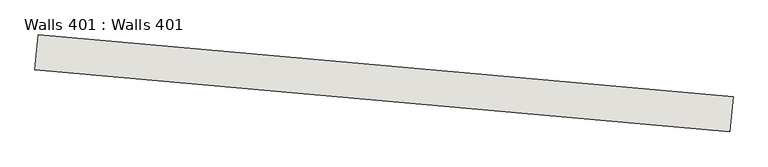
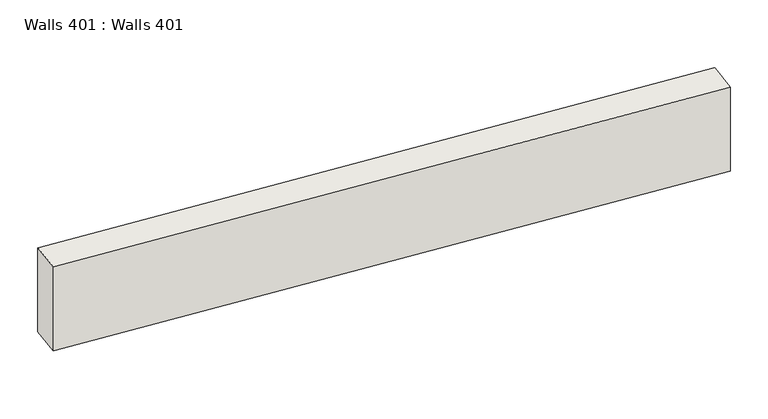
"""IFC4 building model written with IfcOpenShell, lengths in millimetres: wall geometry, Walls 401 : Walls 401."""

import ifcopenshell
import ifcopenshell.guid

model = None  # the IFC model being written
_history = None  # IfcOwnerHistory: only IFC2X3 demands one
_inside = {}  # id of a spatial element -> (the spatial element, [elements in it])
_under = {}  # id of a project, library or spatial element -> (it, [spatial elements below it])
_declared = {}  # id of a project -> (the project, [libraries it declares])
_typed = {}  # id of a type object -> (the type object, [elements of that type])
_made_of = {}  # id of a material, layer set ... -> (it, [elements and type objects made of it])


def new_model(schema):
    """Start an empty IFC model of exactly this schema.

    Asked for "IFC4X3", IfcOpenShell would pick the latest addendum, in which some entities
    have other attributes; the version numbers below select the first issue.
    IFC2X3 requires an IfcOwnerHistory on every rooted entity: one is made here for all.
    """
    global model, _history
    if schema == "IFC4X3":
        model = ifcopenshell.file(schema_version=(4, 3, 0, 0))
    else:
        model = ifcopenshell.file(schema=schema)
    _inside.clear()
    _under.clear()
    _declared.clear()
    _typed.clear()
    _made_of.clear()
    _history = None
    if model.schema == "IFC2X3":
        org = make("IfcOrganization", Name="unknown")
        user = make(
            "IfcPersonAndOrganization",
            ThePerson=make("IfcPerson", FamilyName="unknown"),
            TheOrganization=org,
        )
        app = make(
            "IfcApplication",
            ApplicationDeveloper=org,
            Version="unknown",
            ApplicationFullName="unknown",
            ApplicationIdentifier="unknown",
        )
        _history = make(
            "IfcOwnerHistory",
            OwningUser=user,
            OwningApplication=app,
            ChangeAction="ADDED",
            CreationDate=0,
        )
    return model


def make(cls, **values):
    """One entity of the class cls with the attributes given. An attribute that is None is left unset."""
    return model.create_entity(
        cls, **{name: value for name, value in values.items() if value is not None}
    )


def rooted(cls, **values):
    """An entity with a GlobalId (a new one), such as an element, a storey or a relation."""
    return make(cls, GlobalId=ifcopenshell.guid.new(), OwnerHistory=_history, **values)


def si_unit(unit_type, name, prefix=None):
    """IfcSIUnit, for example si_unit("LENGTHUNIT", "METRE", prefix="MILLI")."""
    return make("IfcSIUnit", UnitType=unit_type, Prefix=prefix, Name=name)


def assignment(units):
    """IfcUnitAssignment: the units of a project."""
    return None if units is None else make("IfcUnitAssignment", Units=units)


def point(xyz):
    """IfcCartesianPoint."""
    return None if xyz is None else make("IfcCartesianPoint", Coordinates=xyz)


def direction(xyz):
    """IfcDirection."""
    return None if xyz is None else make("IfcDirection", DirectionRatios=xyz)


def frame(location, z_axis=None, x_axis=None):
    """IfcAxis2Placement3D, a coordinate frame: its origin and axes. An axis left out is left unset."""
    return make(
        "IfcAxis2Placement3D",
        Location=point(location),
        Axis=direction(z_axis),
        RefDirection=direction(x_axis),
    )


def origin():
    """The frame at (0, 0, 0) with its axes left unset."""
    return frame((0.0, 0.0, 0.0))


def place(relative_to, where):
    """IfcLocalPlacement: puts the frame where relative to a parent placement (None: the world)."""
    return make(
        "IfcLocalPlacement", PlacementRelTo=relative_to, RelativePlacement=where
    )


def context(
    kind, dimensions, precision=None, world=None, true_north=None, identifier=None
):
    """IfcGeometricRepresentationContext, for example the 3D "Model" context."""
    return make(
        "IfcGeometricRepresentationContext",
        ContextIdentifier=identifier,
        ContextType=kind,
        CoordinateSpaceDimension=dimensions,
        Precision=precision,
        WorldCoordinateSystem=world,
        TrueNorth=true_north,
    )


def project(units=None, contexts=None):
    """IfcProject with its units and contexts."""
    return rooted(
        "IfcProject",
        Name="project",
        RepresentationContexts=contexts,
        UnitsInContext=assignment(units),
    )


def spatial(cls, under=None, at=None, **own):
    """A site, building, storey or space (cls), placed at a placement, below another one or the project."""
    s = rooted(cls, ObjectPlacement=at, **own)
    if under is not None:
        _under.setdefault(under.id(), (under, []))[1].append(s)
    return s


def polyline(points):
    """IfcPolyline through the points."""
    return make("IfcPolyline", Points=[point(p) for p in points])


def outline(outer, holes=None, kind="AREA"):
    """IfcArbitraryClosedProfileDef: a profile drawn as a closed curve; with holes, ...WithVoids."""
    if holes is None:
        return make("IfcArbitraryClosedProfileDef", ProfileType=kind, OuterCurve=outer)
    return make(
        "IfcArbitraryProfileDefWithVoids",
        ProfileType=kind,
        OuterCurve=outer,
        InnerCurves=holes,
    )


def extrude(swept, where, along, depth):
    """IfcExtrudedAreaSolid: the profile swept, set in the frame where, extruded along a direction by depth."""
    return make(
        "IfcExtrudedAreaSolid",
        SweptArea=swept,
        Position=where,
        ExtrudedDirection=direction(along),
        Depth=depth,
    )


def shape(context_of_items, identifier, shape_type, items):
    """IfcShapeRepresentation: the items that make up one representation, for example the "Body"."""
    return make(
        "IfcShapeRepresentation",
        ContextOfItems=context_of_items,
        RepresentationIdentifier=identifier,
        RepresentationType=shape_type,
        Items=items,
    )


def source(mapping_origin, context_of_items, identifier, shape_type, items):
    """IfcRepresentationMap: a shape defined once, which mapped items show again and again."""
    return make(
        "IfcRepresentationMap",
        MappingOrigin=mapping_origin,
        MappedRepresentation=shape(context_of_items, identifier, shape_type, items),
    )


def transform(
    local_origin,
    x_axis=None,
    y_axis=None,
    z_axis=None,
    scale=None,
    scale2=None,
    scale3=None,
    uniform=True,
):
    """IfcCartesianTransformationOperator3D, or its non-uniform kind. x_axis, y_axis, z_axis: its Axis1, 2, 3."""
    if uniform:
        return make(
            "IfcCartesianTransformationOperator3D",
            Axis1=direction(x_axis),
            Axis2=direction(y_axis),
            LocalOrigin=point(local_origin),
            Scale=scale,
            Axis3=direction(z_axis),
        )
    return make(
        "IfcCartesianTransformationOperator3DnonUniform",
        Axis1=direction(x_axis),
        Axis2=direction(y_axis),
        LocalOrigin=point(local_origin),
        Scale=scale,
        Axis3=direction(z_axis),
        Scale2=scale2,
        Scale3=scale3,
    )


def mapped(mapping_source, mapping_target):
    """IfcMappedItem: shows the shape of a source again, moved by a transform."""
    return make(
        "IfcMappedItem", MappingSource=mapping_source, MappingTarget=mapping_target
    )


def made_of(thing, what):
    """Note that an element or type object is made of a material, layer set ...; save() writes the relation."""
    if what is not None:
        _made_of.setdefault(what.id(), (what, []))[1].append(thing)
    return thing


def element(
    cls,
    number,
    at=None,
    inside=None,
    cuts=None,
    type_object=None,
    material=None,
    context=None,
    identifier="Body",
    shape_type=None,
    held_by="IfcProductDefinitionShape",
    body=None,
    shapes=None,
    **own,
):
    """One element of the class cls, such as IfcWall. Its Tag is "e" and its number.

    at: its placement. inside: the storey or other place that contains it. cuts: it is an
    opening in that element (IfcRelVoidsElement). A single representation is given by context,
    identifier, shape_type and body (its items); several are given by shapes. held_by: the class
    of the entity that holds the representations. save() writes the other relations.
    """
    e = rooted(cls, Tag="e%d" % number, ObjectPlacement=at, **own)
    if body is not None:
        shapes = [shape(context, identifier, shape_type, body)]
    if shapes is not None:
        e.Representation = make(held_by, Representations=shapes)
    if inside is not None:
        _inside.setdefault(inside.id(), (inside, []))[1].append(e)
    if cuts is not None:
        rooted(
            "IfcRelVoidsElement", RelatingBuildingElement=cuts, RelatedOpeningElement=e
        )
    if type_object is not None:
        _typed.setdefault(type_object.id(), (type_object, []))[1].append(e)
    return made_of(e, material)


def aggregate(whole, parts):
    """IfcRelAggregates: a whole, such as a stair, and the parts it consists of."""
    return rooted("IfcRelAggregates", RelatingObject=whole, RelatedObjects=parts)


def save(model, path):
    """Write the relations noted so far, then the file.

    IfcRelAggregates (storeys below a building ...), IfcRelContainedInSpatialStructure (elements
    in a storey), IfcRelDefinesByType, IfcRelAssociatesMaterial and IfcRelDeclares: one each for
    every whole, place, type object, material and project.
    """
    for whole, parts in _under.values():
        aggregate(whole, parts)
    for where, things in _inside.values():
        rooted(
            "IfcRelContainedInSpatialStructure",
            RelatedElements=things,
            RelatingStructure=where,
        )
    for kind, things in _typed.values():
        rooted("IfcRelDefinesByType", RelatedObjects=things, RelatingType=kind)
    for what, things in _made_of.values():
        rooted("IfcRelAssociatesMaterial", RelatedObjects=things, RelatingMaterial=what)
    for by, libraries in _declared.values():
        rooted("IfcRelDeclares", RelatingContext=by, RelatedDefinitions=libraries)
    model.write(path)


def walls_401_walls_401_9eba3cb4(model_context):
    return source(origin(), model_context, "Body", "SweptSolid", [
        extrude(outline(polyline([(-563075.467636, -428515.2164175), (-563110.962566, -428913.6384424), (-571079.4030643, -428203.7398412), (-571043.9081343, -427805.3178163), (-563075.467636, -428515.2164175)])), frame((0.0, 0.0, 636860.0), z_axis=(0.0, 0.0, 1.0), x_axis=(1.0, 0.0, 0.0)), (0.0, 0.0, 1.0), 1100.0),
    ])


if __name__ == "__main__":
    model = new_model("IFC4")
    model_context = context("Model", 3, world=origin())
    ifc_project = project(units=[si_unit("LENGTHUNIT", "METRE", prefix="MILLI")], contexts=[model_context])
    site = spatial("IfcSite", under=ifc_project)
    building = spatial("IfcBuilding", under=site)
    placement = place(None, origin())
    walls_401_walls_401_shape = walls_401_walls_401_9eba3cb4(model_context)
    element("IfcWall", 1, ObjectType="Walls 401 : Walls 401", at=placement, inside=building, context=model_context, shape_type="MappedRepresentation", body=[
        mapped(walls_401_walls_401_shape, transform((0.0, 0.0, 0.0), x_axis=(1.0, 0.0, 0.0), y_axis=(0.0, 1.0, 0.0), z_axis=(0.0, 0.0, 1.0))),
    ])
    save(model, "model.ifc")
